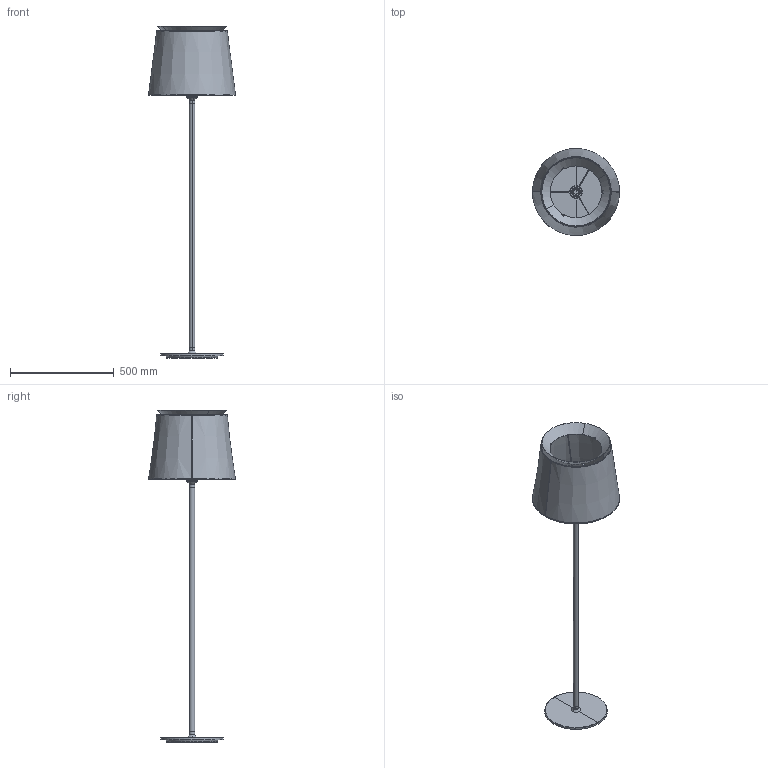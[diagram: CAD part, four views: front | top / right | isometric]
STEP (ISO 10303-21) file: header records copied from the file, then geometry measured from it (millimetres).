
FILE_DESCRIPTION(/* description */ (''),/* implementation_level */ '2;1');
FILE_NAME(/* name */ 'C:\Users\Franco Sartori E\Documents\FARO\DUPLICADO\Modelos\01_Digitalizados\00_OK\SAVOY\03_Publicación\20306_20307\20307-86.stp',/* time_stamp */ '2021-03-12T13:11:22+01:00',/* author */ ('Franco Sartori E'),/* organization */ (''),/* preprocessor_version */ 'ST-DEVELOPER v18.1',/* originating_system */ 'AutoCAD Mechanical',/* authorisation */ '');
FILE_SCHEMA (('AUTOMOTIVE_DESIGN { 1 0 10303 214 3 1 1 }'));
Length unit declared in the file: millimetre
Products named in the file (3): Product; 20306_20307_SAVOY - SAVOY FLOOR STRUCTURE-447492-_3D_; 20316 - SAVOY shade floor lamp-447540-_3D_
Assembly tree (2 placements, depth 2):
  Product
    20306_20307_SAVOY - SAVOY FLOOR STRUCTURE-447492-_3D_
    20316 - SAVOY shade floor lamp-447540-_3D_
Bounding box: 420 x 420 x 1600.08 mm (x, y, z)
Volume: 1803829.5 mm3; surface area: 1999796.5 mm2
Topology: 9 solids, 11 shells, 250 faces, 614 edges, 370 vertices
Faces by surface type: plane 98, cylinder 86, cone 42, torus 24
Entity records: 10276 total; most frequent: CARTESIAN_POINT 4462, DIRECTION 1176, ORIENTED_EDGE 1138, EDGE_CURVE 614, AXIS2_PLACEMENT_3D 446, VERTEX_POINT 370, LINE 284, VECTOR 284
